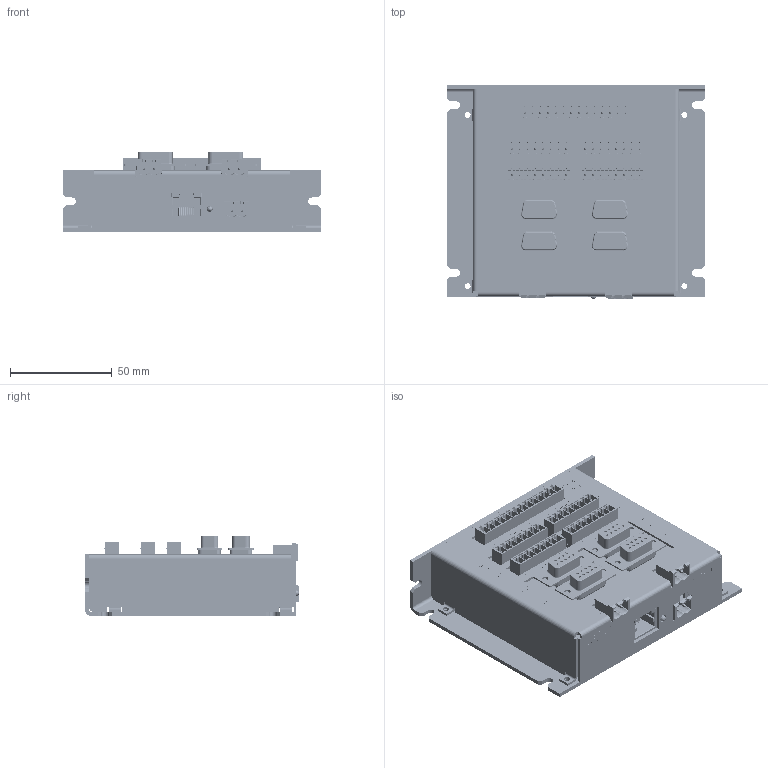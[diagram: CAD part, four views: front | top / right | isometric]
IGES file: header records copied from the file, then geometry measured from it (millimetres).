
Start section: SolidWorks IGES file using analytic representation for surfaces
Global section: file name: C:\Users\IEUser\Documents\Christine folder\Arcus\Project #26 PMX Drawings\PMX-4ET-SA-TB9\PMX-4ET-SA-TB9.IGS; native system: SolidWorks 2008; preprocessor: SolidWorks 2008; author: IEUser; date: 140724.224922; units: inch
Bounding box: 127 x 105.41 x 39.7 mm (x, y, z)
Surface area: 130336.6 mm2 (no closed solid volume)
Topology: 0 solids, 0 shells, 8913 faces, 69658 edges, 69567 vertices
Faces by surface type: bspline 7586, revolution 1327
